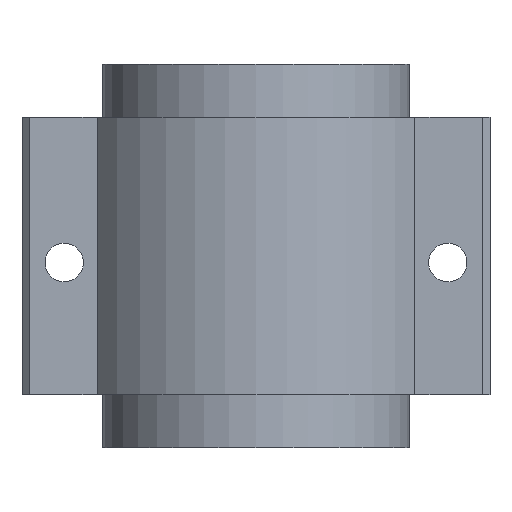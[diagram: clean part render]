
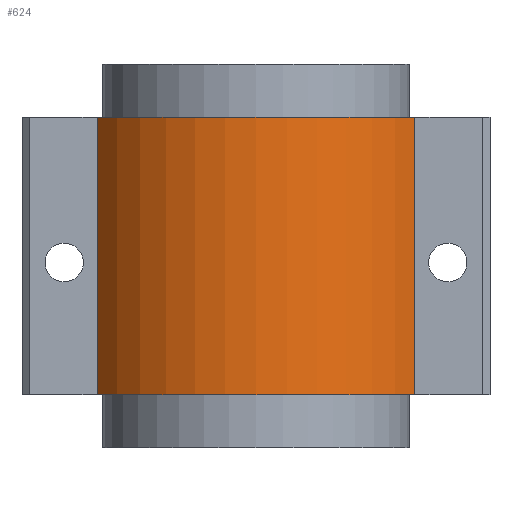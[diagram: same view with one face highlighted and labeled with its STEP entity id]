
A CAD part, front view. The second image highlights one B-rep face of the part: STEP entity #624.
In plain terms, the highlighted cylindrical face has radius 50 mm (diameter 100 mm), a partial arc.
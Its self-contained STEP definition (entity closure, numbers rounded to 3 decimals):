
#425=CARTESIAN_POINT('',(40.716,-23.802,13.85));
#426=VERTEX_POINT('',#425);
#433=CARTESIAN_POINT('',(-42.133,-23.802,13.85));
#434=VERTEX_POINT('',#433);
#435=CARTESIAN_POINT('',(-0.709,4.198,13.85));
#436=DIRECTION('',(0.0,0.0,1.));
#437=DIRECTION('',(0.828,0.56,0.0));
#438=AXIS2_PLACEMENT_3D('',#435,#436,#437);
#439=CIRCLE('',#438,50.0);
#440=EDGE_CURVE('',#434,#426,#439,.T.);
#577=CARTESIAN_POINT('',(40.716,-23.802,86.15));
#578=VERTEX_POINT('',#577);
#585=CARTESIAN_POINT('',(40.716,-23.802,86.15));
#586=DIRECTION('',(0.0,0.0,-1.0));
#587=VECTOR('',#586,72.3);
#588=LINE('',#585,#587);
#589=EDGE_CURVE('',#578,#426,#588,.T.);
#600=CARTESIAN_POINT('',(-0.709,4.198,50.0));
#601=DIRECTION('',(0.0,0.0,1.0));
#602=DIRECTION('',(0.828,0.56,0.0));
#603=AXIS2_PLACEMENT_3D('',#600,#601,#602);
#604=CYLINDRICAL_SURFACE('',#603,50.);
#605=CARTESIAN_POINT('',(-42.133,-23.802,86.15));
#606=VERTEX_POINT('',#605);
#607=CARTESIAN_POINT('',(-0.709,4.198,86.15));
#608=DIRECTION('',(0.0,0.0,-1.));
#609=DIRECTION('',(0.828,0.56,0.0));
#610=AXIS2_PLACEMENT_3D('',#607,#608,#609);
#611=CIRCLE('',#610,50.0);
#612=EDGE_CURVE('',#578,#606,#611,.T.);
#613=ORIENTED_EDGE('',*,*,#612,.T.);
#614=CARTESIAN_POINT('',(-42.133,-23.802,86.15));
#615=DIRECTION('',(0.0,0.0,-1.0));
#616=VECTOR('',#615,72.3);
#617=LINE('',#614,#616);
#618=EDGE_CURVE('',#606,#434,#617,.T.);
#619=ORIENTED_EDGE('',*,*,#618,.T.);
#620=ORIENTED_EDGE('',*,*,#440,.T.);
#621=ORIENTED_EDGE('',*,*,#589,.F.);
#622=EDGE_LOOP('',(#613,#619,#620,#621));
#623=FACE_OUTER_BOUND('',#622,.T.);
#624=ADVANCED_FACE('',(#623),#604,.T.);
